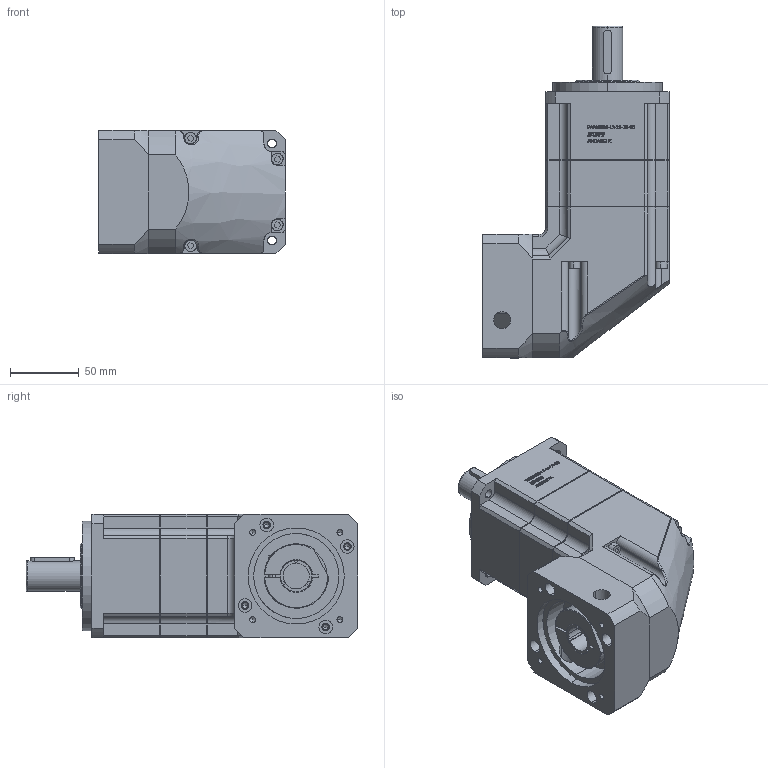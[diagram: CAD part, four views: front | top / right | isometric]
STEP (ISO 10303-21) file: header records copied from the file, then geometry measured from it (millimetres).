
FILE_DESCRIPTION (( 'STEP AP203' ), '1' );
FILE_NAME ('PAMG90-L2-19-70-90.STEP', '2022-07-18T03:33:50', ( 'Windows User' ), ( 'P R C' ), 'SwSTEP 2.0', 'SolidWorks 2016', '' );
FILE_SCHEMA (( 'CONFIG_CONTROL_DESIGN' ));
Length unit declared in the file: millimetre
Products named in the file (10): PAMG90-L2-19-70-90; PAMG90奻裔啣; PAMG90-SJH01_3.傖こ; PAMG90-眊极_桽倰2; PAMG90-LJ_珨极宒 梓袧; 内六角圆柱头螺钉M5×20; A倰す瑩 6x6x32; 油封範本 TC 72x50x8_TC-34.9-55-7; GB／T70．1-2000内六角圆柱头螺钉M5×70_M5×85; PAMG90二级齿圈
Assembly tree (13 placements, depth 2):
  PAMG90-L2-19-70-90
    PAMG90二级齿圈
    PAMG90奻裔啣
    PAMG90-SJH01_3.傖こ
    PAMG90-眊极_桽倰2
    PAMG90-LJ_珨极宒 梓袧
    内六角圆柱头螺钉M5×20
    A倰す瑩 6x6x32
    油封範本 TC 72x50x8_TC-34.9-55-7
    GB／T70．1-2000内六角圆柱头螺钉M5×70_M5×85  x5
Bounding box: 136 x 242 x 90 mm (x, y, z)
Volume: 1547215.1 mm3; surface area: 196424.5 mm2
Topology: 13 solids, 13 shells, 1153 faces, 2934 edges, 1892 vertices
Faces by surface type: plane 600, cylinder 223, bspline 184, cone 88, torus 58
Entity records: 43589 total; most frequent: CARTESIAN_POINT 17374, ORIENTED_EDGE 5464, DIRECTION 4601, EDGE_CURVE 2732, VERTEX_POINT 1780, VECTOR 1731, LINE 1731, AXIS2_PLACEMENT_3D 1435
